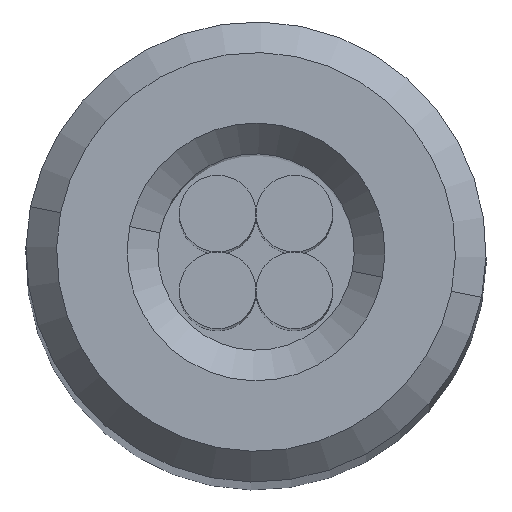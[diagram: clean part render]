
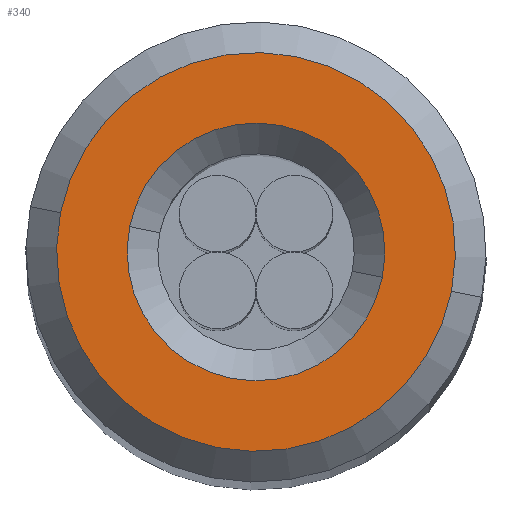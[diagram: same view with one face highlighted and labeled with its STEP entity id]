
A CAD part, top view. The second image highlights one B-rep face of the part: STEP entity #340.
In plain terms, the highlighted planar face has unit normal (0, 0, 1).
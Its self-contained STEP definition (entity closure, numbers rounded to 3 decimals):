
#38 = CARTESIAN_POINT ( 'NONE',  ( -0.42, 0., 15. ) ) ;
#59 = EDGE_CURVE ( 'NONE', #961, #760, #740, .T. ) ;
#170 = DIRECTION ( 'NONE',  ( 0., 0., -1. ) ) ;
#189 = VERTEX_POINT ( 'NONE', #229 ) ;
#191 = ORIENTED_EDGE ( 'NONE', *, *, #214, .T. ) ;
#214 = EDGE_CURVE ( 'NONE', #664, #189, #741, .T. ) ;
#229 = CARTESIAN_POINT ( 'NONE',  ( -0.65, 0., 15. ) ) ;
#235 = EDGE_CURVE ( 'NONE', #760, #961, #575, .T. ) ;
#250 = DIRECTION ( 'NONE',  ( 0., 0., -1. ) ) ;
#271 = FACE_BOUND ( 'NONE', #687, .T. ) ;
#295 = AXIS2_PLACEMENT_3D ( 'NONE', #965, #721, #799 ) ;
#326 = DIRECTION ( 'NONE',  ( 0., 0., 1. ) ) ;
#340 = ADVANCED_FACE ( 'NONE', ( #271, #942 ), #917, .T. ) ;
#396 = DIRECTION ( 'NONE',  ( 1., 0., 0. ) ) ;
#398 = CARTESIAN_POINT ( 'NONE',  ( 0.42, 0., 15. ) ) ;
#406 = CIRCLE ( 'NONE', #1002, 0.65 ) ;
#463 = EDGE_CURVE ( 'NONE', #189, #664, #406, .T. ) ;
#471 = AXIS2_PLACEMENT_3D ( 'NONE', #502, #250, #396 ) ;
#487 = DIRECTION ( 'NONE',  ( 1., 0., 0. ) ) ;
#502 = CARTESIAN_POINT ( 'NONE',  ( 0., 0., 15. ) ) ;
#511 = DIRECTION ( 'NONE',  ( 1., 0., 0. ) ) ;
#529 = ORIENTED_EDGE ( 'NONE', *, *, #235, .T. ) ;
#548 = CARTESIAN_POINT ( 'NONE',  ( 0., 0., 15. ) ) ;
#575 = CIRCLE ( 'NONE', #671, 0.42 ) ;
#597 = ORIENTED_EDGE ( 'NONE', *, *, #463, .T. ) ;
#660 = CARTESIAN_POINT ( 'NONE',  ( 0., 0., 15. ) ) ;
#664 = VERTEX_POINT ( 'NONE', #931 ) ;
#671 = AXIS2_PLACEMENT_3D ( 'NONE', #548, #170, #487 ) ;
#687 = EDGE_LOOP ( 'NONE', ( #529, #796 ) ) ;
#690 = AXIS2_PLACEMENT_3D ( 'NONE', #660, #829, #511 ) ;
#699 = DIRECTION ( 'NONE',  ( 1., 0., 0. ) ) ;
#721 = DIRECTION ( 'NONE',  ( 0., 0., 1. ) ) ;
#740 = CIRCLE ( 'NONE', #471, 0.42 ) ;
#741 = CIRCLE ( 'NONE', #295, 0.65 ) ;
#760 = VERTEX_POINT ( 'NONE', #398 ) ;
#762 = EDGE_LOOP ( 'NONE', ( #597, #191 ) ) ;
#796 = ORIENTED_EDGE ( 'NONE', *, *, #59, .T. ) ;
#799 = DIRECTION ( 'NONE',  ( 1., 0., 0. ) ) ;
#829 = DIRECTION ( 'NONE',  ( 0., 0., 1. ) ) ;
#917 = PLANE ( 'NONE',  #690 ) ;
#931 = CARTESIAN_POINT ( 'NONE',  ( 0.65, 0., 15. ) ) ;
#942 = FACE_OUTER_BOUND ( 'NONE', #762, .T. ) ;
#961 = VERTEX_POINT ( 'NONE', #38 ) ;
#965 = CARTESIAN_POINT ( 'NONE',  ( 0., 0., 15. ) ) ;
#1002 = AXIS2_PLACEMENT_3D ( 'NONE', #1042, #326, #699 ) ;
#1042 = CARTESIAN_POINT ( 'NONE',  ( 0., 0., 15. ) ) ;
